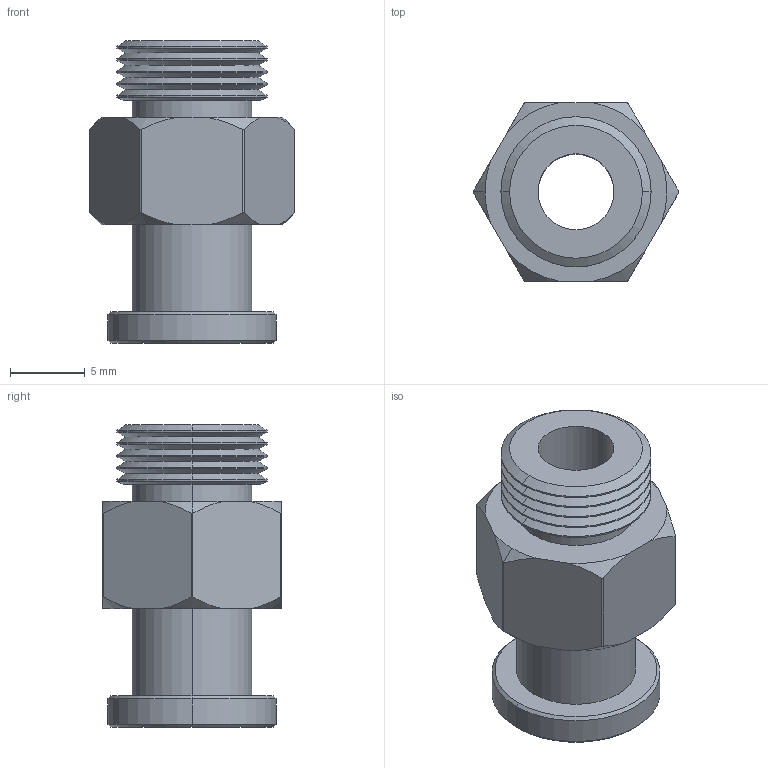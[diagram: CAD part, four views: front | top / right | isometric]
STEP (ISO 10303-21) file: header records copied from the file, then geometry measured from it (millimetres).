
FILE_DESCRIPTION (( 'STEP AP214' ), '1' );
FILE_NAME ('VM10-G18.STEP', '2019-11-14T02:30:58', ( '微软用户' ), ( '微软中国' ), 'SwSTEP 2.0', 'SolidWorks 2016', '' );
FILE_SCHEMA (( 'AUTOMOTIVE_DESIGN' ));
Length unit declared in the file: millimetre
Products named in the file (1): VM10-G18
Bounding box: 13.8 x 12 x 20.3 mm (x, y, z)
Volume: 1328.2 mm3; surface area: 1406.3 mm2
Topology: 1 solids, 1 shells, 83 faces, 190 edges, 113 vertices
Faces by surface type: cone 38, cylinder 33, plane 12
Entity records: 2435 total; most frequent: CARTESIAN_POINT 507, DIRECTION 423, ORIENTED_EDGE 380, EDGE_CURVE 190, AXIS2_PLACEMENT_3D 173, VERTEX_POINT 113, CIRCLE 89, EDGE_LOOP 89
